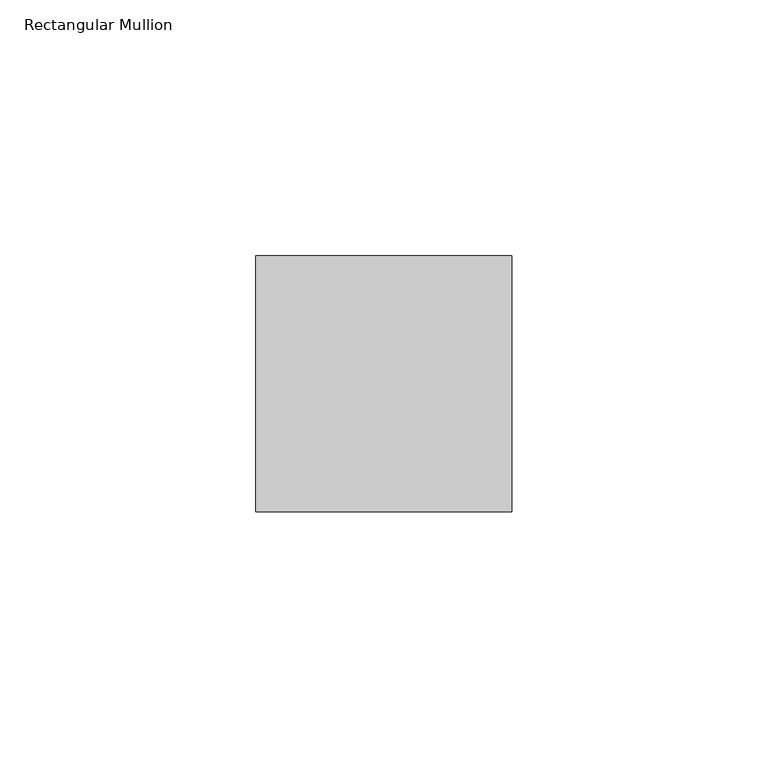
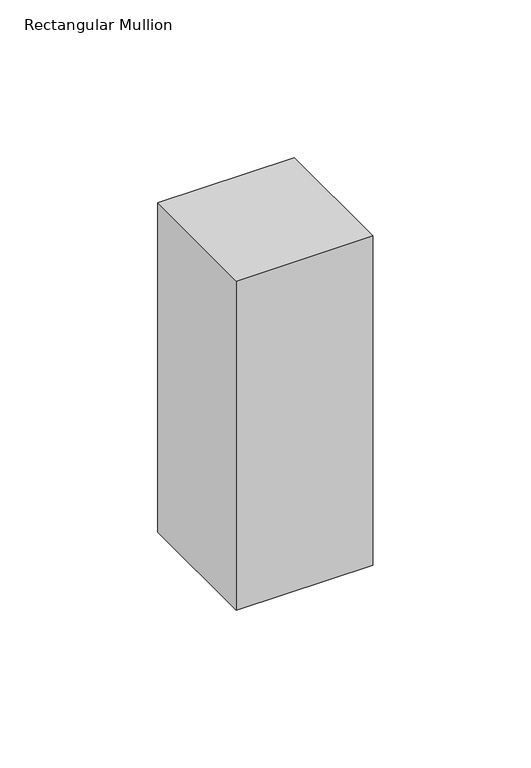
"""IFC4 building model written with IfcOpenShell, lengths in millimetres: member geometry, Rectangular Mullion : RSen_21_CWM_support profile 50x50_gen_duco projects."""

from ifc_helpers import new_model, si_unit, frame, origin, place, context, project, spatial, polyline, outline, extrude, source, transform, mapped, element, save


def rectangular_mullion_172e3795(model_context):
    return source(origin(), model_context, "Body", "SweptSolid", [
        extrude(outline(polyline([(25.0, 1.0), (25.0, -49.0), (-25.0, -49.0), (-25.0, 1.0), (25.0, 1.0)])), frame((0.0, 0.0, -127.5), z_axis=(0.0, 0.0, 1.0), x_axis=(1.0, 0.0, 0.0)), (0.0, 0.0, 1.0), 127.5),
    ])


if __name__ == "__main__":
    model = new_model("IFC4")
    model_context = context("Model", 3, world=origin())
    ifc_project = project(units=[si_unit("LENGTHUNIT", "METRE", prefix="MILLI")], contexts=[model_context])
    site = spatial("IfcSite", under=ifc_project)
    building = spatial("IfcBuilding", under=site)
    placement = place(None, origin())
    rectangular_mullion_shape = rectangular_mullion_172e3795(model_context)
    element("IfcMember", 1, ObjectType="Rectangular Mullion : RSen_21_CWM_support profile 50x50_gen_duco projects", at=placement, inside=building, context=model_context, shape_type="MappedRepresentation", body=[
        mapped(rectangular_mullion_shape, transform((0.0, 0.0, 0.0), x_axis=(1.0, 0.0, 0.0), y_axis=(0.0, 1.0, 0.0), z_axis=(0.0, 0.0, 1.0))),
    ])
    save(model, "model.ifc")
